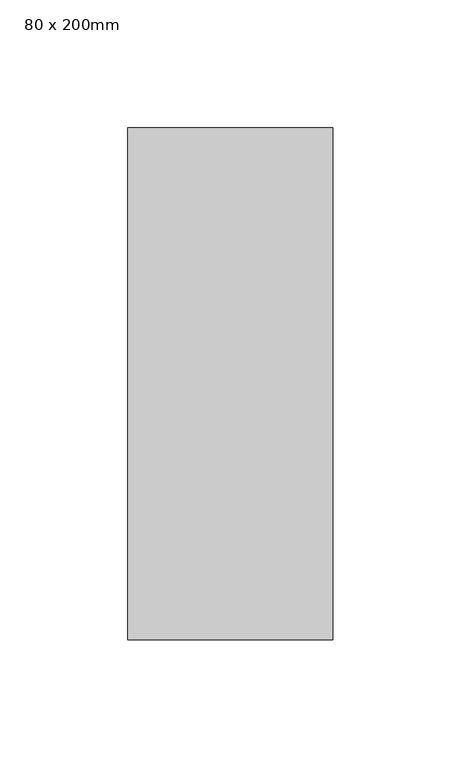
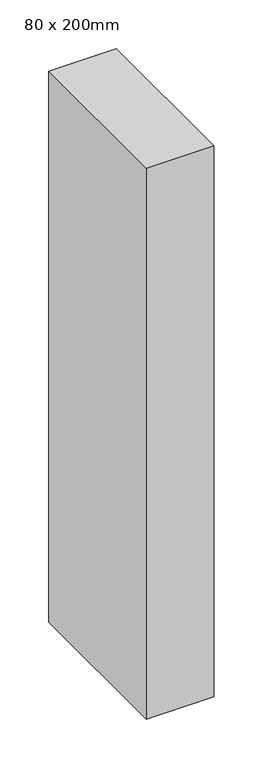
"""IFC4 building model written with IfcOpenShell, lengths in millimetres: member geometry, 矩形竖梃 : 80 x 200mm."""

from ifc_helpers import new_model, si_unit, frame, origin, place, context, project, spatial, polyline, outline, extrude, source, transform, mapped, element, save


def member_80_x_200mm_a242178f(model_context):
    return source(origin(), model_context, "Body", "SweptSolid", [
        extrude(outline(polyline([(0.0, 100.0), (0.0, -100.0), (-80.0, -100.0), (-80.0, 100.0), (0.0, 100.0)])), frame((0.0, 0.0, -690.0000002), z_axis=(0.0, 0.0, 1.0), x_axis=(1.0, 0.0, 0.0)), (0.0, 0.0, 1.0), 690.0000002),
    ])


if __name__ == "__main__":
    model = new_model("IFC4")
    model_context = context("Model", 3, world=origin())
    ifc_project = project(units=[si_unit("LENGTHUNIT", "METRE", prefix="MILLI")], contexts=[model_context])
    site = spatial("IfcSite", under=ifc_project)
    building = spatial("IfcBuilding", under=site)
    placement = place(None, origin())
    member_80_x_200mm_shape = member_80_x_200mm_a242178f(model_context)
    element("IfcMember", 1, ObjectType="矩形竖梃 : 80 x 200mm", at=placement, inside=building, context=model_context, shape_type="MappedRepresentation", body=[
        mapped(member_80_x_200mm_shape, transform((0.0, 0.0, 0.0), x_axis=(1.0, 0.0, 0.0), y_axis=(0.0, 1.0, 0.0), z_axis=(0.0, 0.0, 1.0))),
    ])
    save(model, "model.ifc")
